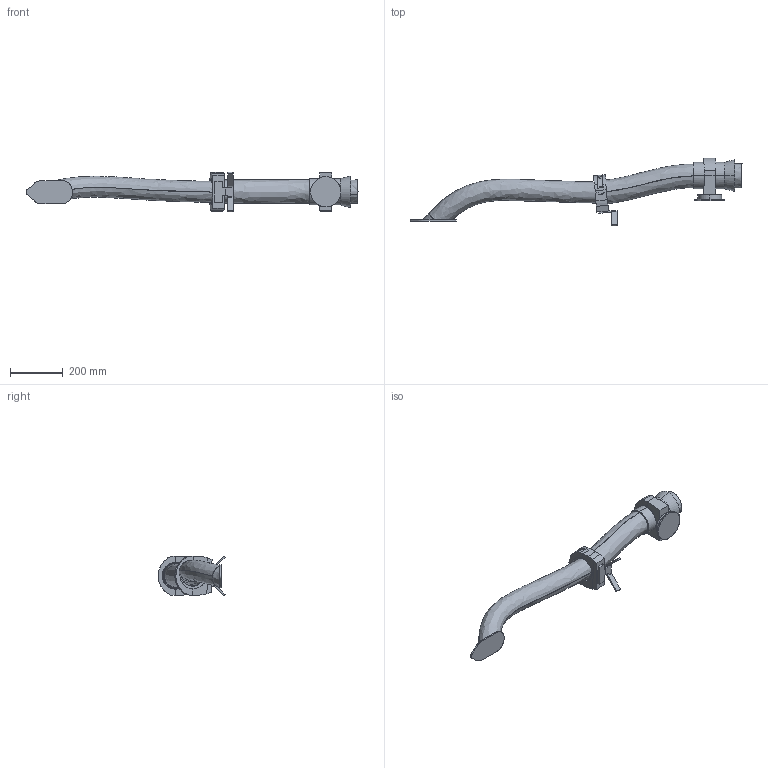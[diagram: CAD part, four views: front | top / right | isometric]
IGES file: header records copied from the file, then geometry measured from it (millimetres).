
Start section: SolidWorks IGES file using analytic representation for surfaces
Global section: file name: C:\Users\SEALDUN\OneDrive - ABB\Documents\R&D Robotics\Work Items\WI 632927 light weight hole removal\IGES\IRB5720-LID-MH_90kg-300_OC_03_IGES_J\IRB5720-LID_90kg-300_OmniCore_rev00_LINK04_CABLE.igs; native system: SolidWorks 2024; preprocessor: SolidWorks 2024; author: SEALDUN; date: 250708.123116; units: millimetre
Bounding box: 1260.15 x 256.35 x 150.86 mm (x, y, z)
Surface area: 556253.4 mm2 (no closed solid volume)
Topology: 0 solids, 0 shells, 292 faces, 5258 edges, 5258 vertices
Faces by surface type: bspline 184, revolution 108
